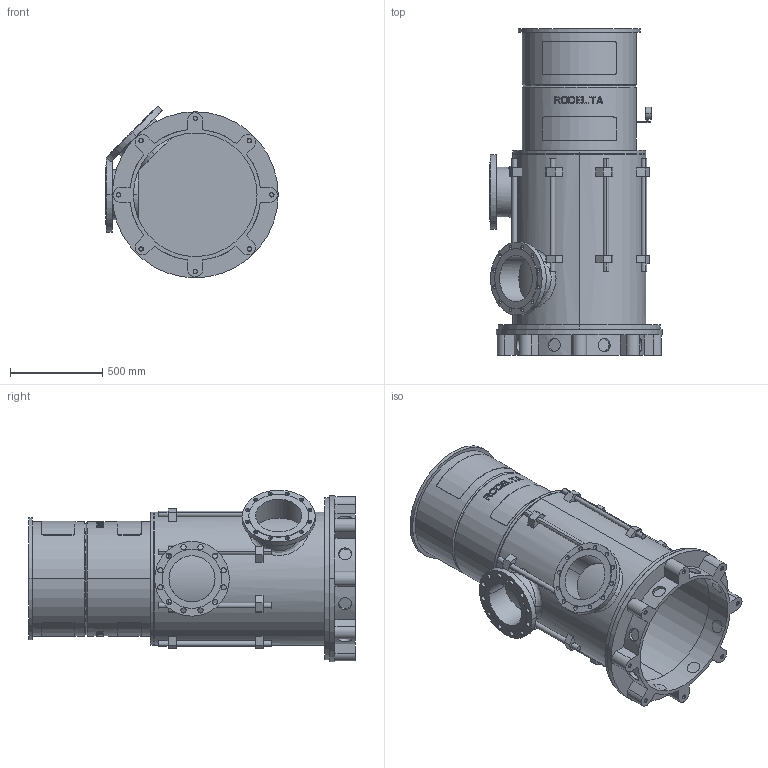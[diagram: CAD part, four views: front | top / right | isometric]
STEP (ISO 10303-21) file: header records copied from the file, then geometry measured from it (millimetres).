
FILE_DESCRIPTION((''),'2;1');
FILE_NAME('LS10_1TR_0GR_PN16','2025-10-24T13:41:07',('Lyritlocal'),(''),'CREO PARAMETRIC BY PTC INC, 2022014','CREO PARAMETRIC BY PTC INC, 2022014','');
FILE_SCHEMA(('CONFIG_CONTROL_DESIGN'));
Length unit declared in the file: millimetre
Products named in the file (1): LS10_1TR_0GR_PN16
Bounding box: 935 x 1770 x 930.48 mm (x, y, z)
Volume: 82960002.3 mm3; surface area: 11035599.5 mm2
Topology: 3 solids, 11 shells, 752 faces, 1934 edges, 1288 vertices
Faces by surface type: plane 462, cylinder 274, cone 12, bspline 4
Entity records: 24400 total; most frequent: CARTESIAN_POINT 6054, ORIENTED_EDGE 3836, DIRECTION 3662, EDGE_CURVE 1934, AXIS2_PLACEMENT_3D 1381, VERTEX_POINT 1288, EDGE_LOOP 924, VECTOR 900
